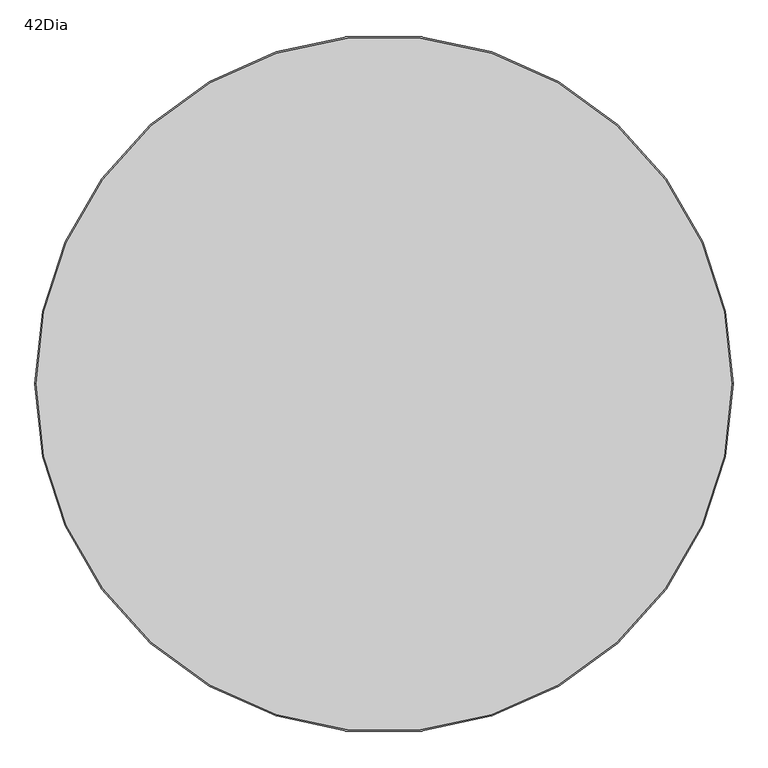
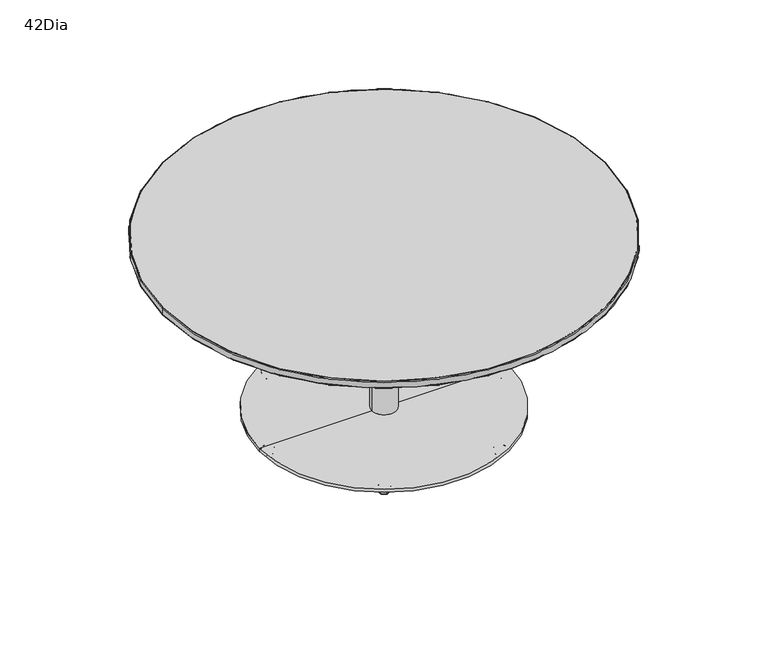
"""IFC4 building model written with IfcOpenShell, lengths in millimetres: furniture geometry, Coalesse_AM_Table_Occasional_Montara650Table_Round : 42Dia."""

from ifc_helpers import new_model, si_unit, point, frame, origin, origin_with_axes, origin_2d, place, context, project, spatial, polyline, circle_curve, ellipse_curve, trimmed, segment, composite_curve, outline, extrude, source, transform, mapped, element, save
from ifc_brep_helpers import plane_surface, cylinder_surface, revolved_surface, advanced_brep


def furniture_42dia_f3805051(model_context):
    return source(origin(), model_context, "Body", "SolidModel", [
        advanced_brep(
        [(140.1902286, -242.2232047, 0.0), (147.532871, -249.5658472, 0.0), (132.8475862, -234.8805623, 0.0), (148.0793732, -250.1123493, 0.5718943), (132.301084, -234.3340602, 0.5718943), (150.3784723, -252.4114484, 11.2068005), (130.0019849, -232.0349611, 11.2068005), (149.9634515, -251.9964276, 11.9999882), (130.4170057, -232.4499819, 11.9999882), (140.1902286, -242.2232047, 11.9999882)],
        [
            (0, 1),
            (1, 2, circle_curve(frame((140.1902286, -242.2232047, 0.0), z_axis=(0.0, 0.0, -1.0), x_axis=(0.7071067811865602, -0.7071067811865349, 0.0)), 10.3840645)),
            (2, 0),
            (2, 1, circle_curve(frame((140.1902286, -242.2232047, 0.0), z_axis=(0.0, 0.0, -1.0), x_axis=(0.7071067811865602, -0.7071067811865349, 0.0)), 10.3840645)),
            (1, 3, circle_curve(frame((147.532871, -249.5658472, 0.8081846), z_axis=(-0.7071067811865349, -0.7071067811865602, 0.0), x_axis=(0.7071067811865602, -0.7071067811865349, 0.0)), 0.8081846)),
            (3, 4, circle_curve(frame((140.1902286, -242.2232047, 0.5718943), z_axis=(0.0, 0.0, -1.0), x_axis=(0.7071067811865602, -0.7071067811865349, 0.0)), 11.1569353)),
            (4, 2, circle_curve(frame((132.8475862, -234.8805623, 0.8081846), z_axis=(-0.7071067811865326, -0.7071067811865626, 0.0), x_axis=(-0.7071067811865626, 0.7071067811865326, 0.0)), 0.8081846)),
            (4, 3, circle_curve(frame((140.1902286, -242.2232047, 0.5718943), z_axis=(0.0, 0.0, -1.0), x_axis=(0.7071067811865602, -0.7071067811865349, 0.0)), 11.1569353)),
            (3, 5),
            (5, 6, circle_curve(frame((140.1902286, -242.2232047, 11.2068005), z_axis=(0.0, 0.0, -1.0), x_axis=(0.7071067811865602, -0.7071067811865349, 0.0)), 14.4083524)),
            (6, 4),
            (6, 5, circle_curve(frame((140.1902286, -242.2232047, 11.2068005), z_axis=(0.0, 0.0, -1.0), x_axis=(0.7071067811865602, -0.7071067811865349, 0.0)), 14.4083524)),
            (5, 7, circle_curve(frame((149.9634515, -251.9964276, 11.3862424), z_axis=(-0.7071067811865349, -0.7071067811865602, 0.0), x_axis=(0.7071067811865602, -0.7071067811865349, 0.0)), 0.6137458)),
            (7, 8, circle_curve(frame((140.1902286, -242.2232047, 11.9999882), z_axis=(0.0, 0.0, -1.0), x_axis=(0.7071067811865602, -0.7071067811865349, 0.0)), 13.8214243)),
            (8, 6, circle_curve(frame((130.4170057, -232.4499819, 11.3862424), z_axis=(-0.7071067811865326, -0.7071067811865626, 0.0), x_axis=(-0.7071067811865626, 0.7071067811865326, 0.0)), 0.6137458)),
            (8, 7, circle_curve(frame((140.1902286, -242.2232047, 11.9999882), z_axis=(0.0, 0.0, -1.0), x_axis=(0.7071067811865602, -0.7071067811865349, 0.0)), 13.8214243)),
            (7, 9),
            (9, 8),
        ],
        [
            plane_surface(frame((140.1902286, -242.2232047, 0.0), z_axis=(0.0, 0.0, -1.0000000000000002), x_axis=(0.7071067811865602, -0.7071067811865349, 0.0))),
            revolved_surface(trimmed(ellipse_curve(frame((147.532871, -249.5658472, 0.8081846), z_axis=(0.7071067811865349, 0.7071067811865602, 0.0), x_axis=(0.7071067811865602, -0.7071067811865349, 0.0)), 0.8081846, 0.8081846), [point((148.0793732, -250.1123493, 0.5718943))], [point((147.532871, -249.5658472, 0.0))], True, "CARTESIAN"), (140.1902286, -242.2232047, 12.2086845), (0.0, 0.0, -1.0)),
            revolved_surface(polyline([(150.3784723, -252.4114484, 11.2068005), (148.0793732, -250.1123493, 0.5718943)]), (140.1902286, -242.2232047, 12.2086845), (0.0, 0.0, -1.0)),
            revolved_surface(trimmed(ellipse_curve(frame((149.9634515, -251.9964276, 11.3862424), z_axis=(0.7071067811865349, 0.7071067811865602, 0.0), x_axis=(0.7071067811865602, -0.7071067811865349, 0.0)), 0.6137458, 0.6137458), [point((149.9634515, -251.9964276, 11.9999882))], [point((150.3784723, -252.4114484, 11.2068005))], True, "CARTESIAN"), (140.1902286, -242.2232047, 12.2086845), (0.0, 0.0, -1.0)),
            plane_surface(frame((140.1902286, -242.2232047, 11.9999882), z_axis=(0.0, 0.0, 1.0000000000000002), x_axis=(0.7071067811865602, -0.7071067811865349, 0.0))),
        ],
        [
            (0, [[1, 2, 3]]),
            (0, [[-3, 4, -1]]),
            (1, [[-2, 5, 6, 7]]),
            (1, [[-4, -7, 8, -5]]),
            (2, [[-6, 9, 10, 11]]),
            (2, [[-8, -11, 12, -9]]),
            (3, [[-10, 13, 14, 15]]),
            (3, [[-12, -15, 16, -13]]),
            (4, [[-14, 17, 18]]),
            (4, [[-16, -18, -17]]),
        ],
    ),
        advanced_brep(
        [(-272.6726436, 7.3478584, 0.0), (-287.3579284, -7.3374265, 0.0), (-280.015286, 0.005216, 0.0), (-272.1261414, 7.8943605, 0.5718943), (-287.9044306, -7.8839286, 0.5718943), (-269.8270423, 10.1934596, 11.2068005), (-290.2035297, -10.1830277, 11.2068005), (-270.2420631, 9.7784388, 11.9999882), (-289.7885089, -9.7680069, 11.9999882), (-280.015286, 0.005216, 11.9999882)],
        [
            (0, 1, circle_curve(frame((-280.015286, 0.005216, 0.0), z_axis=(0.0, 0.0, -1.0), x_axis=(-0.7071067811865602, -0.7071067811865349, 0.0)), 10.3840645)),
            (1, 2),
            (2, 0),
            (1, 0, circle_curve(frame((-280.015286, 0.005216, 0.0), z_axis=(0.0, 0.0, -1.0), x_axis=(-0.7071067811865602, -0.7071067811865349, 0.0)), 10.3840645)),
            (3, 4, circle_curve(frame((-280.015286, 0.005216, 0.5718943), z_axis=(0.0, 0.0, -1.0), x_axis=(-0.7071067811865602, -0.7071067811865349, 0.0)), 11.1569353)),
            (4, 1, circle_curve(frame((-287.3579284, -7.3374265, 0.8081846), z_axis=(0.7071067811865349, -0.7071067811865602, 0.0), x_axis=(-0.7071067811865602, -0.7071067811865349, 0.0)), 0.8081846)),
            (0, 3, circle_curve(frame((-272.6726436, 7.3478584, 0.8081846), z_axis=(0.7071067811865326, -0.7071067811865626, 0.0), x_axis=(0.7071067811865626, 0.7071067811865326, 0.0)), 0.8081846)),
            (4, 3, circle_curve(frame((-280.015286, 0.005216, 0.5718943), z_axis=(0.0, 0.0, -1.0), x_axis=(-0.7071067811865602, -0.7071067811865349, 0.0)), 11.1569353)),
            (5, 6, circle_curve(frame((-280.015286, 0.005216, 11.2068005), z_axis=(0.0, 0.0, -1.0), x_axis=(-0.7071067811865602, -0.7071067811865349, 0.0)), 14.4083524)),
            (6, 4),
            (3, 5),
            (6, 5, circle_curve(frame((-280.015286, 0.005216, 11.2068005), z_axis=(0.0, 0.0, -1.0), x_axis=(-0.7071067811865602, -0.7071067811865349, 0.0)), 14.4083524)),
            (7, 8, circle_curve(frame((-280.015286, 0.005216, 11.9999882), z_axis=(0.0, 0.0, -1.0), x_axis=(-0.7071067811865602, -0.7071067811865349, 0.0)), 13.8214243)),
            (8, 6, circle_curve(frame((-289.7885089, -9.7680069, 11.3862424), z_axis=(0.7071067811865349, -0.7071067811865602, 0.0), x_axis=(-0.7071067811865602, -0.7071067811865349, 0.0)), 0.6137458)),
            (5, 7, circle_curve(frame((-270.2420631, 9.7784388, 11.3862424), z_axis=(0.7071067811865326, -0.7071067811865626, 0.0), x_axis=(0.7071067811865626, 0.7071067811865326, 0.0)), 0.6137458)),
            (8, 7, circle_curve(frame((-280.015286, 0.005216, 11.9999882), z_axis=(0.0, 0.0, -1.0), x_axis=(-0.7071067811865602, -0.7071067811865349, 0.0)), 13.8214243)),
            (9, 8),
            (7, 9),
        ],
        [
            plane_surface(frame((-280.015286, 0.005216, 0.0), z_axis=(0.0, 0.0, -1.0000000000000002), x_axis=(-0.7071067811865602, -0.7071067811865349, 0.0))),
            revolved_surface(trimmed(ellipse_curve(frame((-287.3579284, -7.3374265, 0.8081846), z_axis=(-0.7071067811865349, 0.7071067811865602, 0.0), x_axis=(-0.7071067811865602, -0.7071067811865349, 0.0)), 0.8081846, 0.8081846), [point((-287.3579284, -7.3374265, 0.0))], [point((-287.9044306, -7.8839286, 0.5718943))], True, "CARTESIAN"), (-280.015286, 0.005216, 12.2086845), (0.0, 0.0, 1.0)),
            revolved_surface(polyline([(-287.9044306, -7.8839286, 0.5718943), (-290.2035297, -10.1830277, 11.2068005)]), (-280.015286, 0.005216, 12.2086845), (0.0, 0.0, 1.0)),
            revolved_surface(trimmed(ellipse_curve(frame((-289.7885089, -9.7680069, 11.3862424), z_axis=(-0.7071067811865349, 0.7071067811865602, 0.0), x_axis=(-0.7071067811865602, -0.7071067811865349, 0.0)), 0.6137458, 0.6137458), [point((-290.2035297, -10.1830277, 11.2068005))], [point((-289.7885089, -9.7680069, 11.9999882))], True, "CARTESIAN"), (-280.015286, 0.005216, 12.2086845), (0.0, 0.0, 1.0)),
            plane_surface(frame((-280.015286, 0.005216, 11.9999882), z_axis=(0.0, 0.0, 1.0000000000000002), x_axis=(-0.7071067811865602, -0.7071067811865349, 0.0))),
        ],
        [
            (0, [[1, 2, 3]]),
            (0, [[4, -3, -2]]),
            (1, [[5, 6, -1, 7]]),
            (1, [[8, -7, -4, -6]]),
            (2, [[9, 10, -5, 11]]),
            (2, [[12, -11, -8, -10]]),
            (3, [[13, 14, -9, 15]]),
            (3, [[16, -15, -12, -14]]),
            (4, [[17, -13, 18]]),
            (4, [[-18, -16, -17]]),
        ],
    ),
        advanced_brep(
        [(-139.956746, -232.3431955, 0.0), (-139.956746, -253.1113245, 0.0), (-139.956746, -242.72726, 0.0), (-139.956746, -231.5703248, 0.5718943), (-139.956746, -253.8841953, 0.5718943), (-139.956746, -228.3189076, 11.2068005), (-139.956746, -257.1356124, 11.2068005), (-139.956746, -228.9058357, 11.9999882), (-139.956746, -256.5486844, 11.9999882), (-139.956746, -242.72726, 11.9999882)],
        [
            (0, 1, circle_curve(frame((-139.956746, -242.72726, 0.0), z_axis=(0.0, 0.0, -1.0), x_axis=(0.0, -1.0, 0.0)), 10.3840645)),
            (1, 2),
            (2, 0),
            (1, 0, circle_curve(frame((-139.956746, -242.72726, 0.0), z_axis=(0.0, 0.0, -1.0), x_axis=(0.0, -1.0, 0.0)), 10.3840645)),
            (3, 4, circle_curve(frame((-139.956746, -242.72726, 0.5718943), z_axis=(0.0, 0.0, -1.0), x_axis=(0.0, -1.0, 0.0)), 11.1569353)),
            (4, 1, circle_curve(frame((-139.956746, -253.1113245, 0.8081846), z_axis=(1.0, 0.0, 0.0), x_axis=(0.0, -1.0, 0.0)), 0.8081846)),
            (0, 3, circle_curve(frame((-139.956746, -232.3431955, 0.8081846), z_axis=(1.0, 0.0, 0.0), x_axis=(0.0, 1.0, 0.0)), 0.8081846)),
            (4, 3, circle_curve(frame((-139.956746, -242.72726, 0.5718943), z_axis=(0.0, 0.0, -1.0), x_axis=(0.0, -1.0, 0.0)), 11.1569353)),
            (5, 6, circle_curve(frame((-139.956746, -242.72726, 11.2068005), z_axis=(0.0, 0.0, -1.0), x_axis=(0.0, -1.0, 0.0)), 14.4083524)),
            (6, 4),
            (3, 5),
            (6, 5, circle_curve(frame((-139.956746, -242.72726, 11.2068005), z_axis=(0.0, 0.0, -1.0), x_axis=(0.0, -1.0, 0.0)), 14.4083524)),
            (7, 8, circle_curve(frame((-139.956746, -242.72726, 11.9999882), z_axis=(0.0, 0.0, -1.0), x_axis=(0.0, -1.0, 0.0)), 13.8214243)),
            (8, 6, circle_curve(frame((-139.956746, -256.5486844, 11.3862424), z_axis=(1.0, 0.0, 0.0), x_axis=(0.0, -1.0, 0.0)), 0.6137458)),
            (5, 7, circle_curve(frame((-139.956746, -228.9058357, 11.3862424), z_axis=(1.0, 0.0, 0.0), x_axis=(0.0, 1.0, 0.0)), 0.6137458)),
            (8, 7, circle_curve(frame((-139.956746, -242.72726, 11.9999882), z_axis=(0.0, 0.0, -1.0), x_axis=(0.0, -1.0, 0.0)), 13.8214243)),
            (9, 8),
            (7, 9),
        ],
        [
            plane_surface(frame((-139.956746, -242.72726, 0.0), z_axis=(0.0, 0.0, -1.0), x_axis=(0.0, -1.0, 0.0))),
            revolved_surface(trimmed(ellipse_curve(frame((-139.956746, -253.1113245, 0.8081846), z_axis=(-1.0, 0.0, 0.0), x_axis=(0.0, -1.0, 0.0)), 0.8081846, 0.8081846), [point((-139.956746, -253.1113245, 0.0))], [point((-139.956746, -253.8841953, 0.5718943))], True, "CARTESIAN"), (-139.956746, -242.72726, 12.2086845), (0.0, 0.0, 1.0)),
            revolved_surface(polyline([(-139.956746, -253.8841953, 0.5718943), (-139.956746, -257.1356124, 11.2068005)]), (-139.956746, -242.72726, 12.2086845), (0.0, 0.0, 1.0)),
            revolved_surface(trimmed(ellipse_curve(frame((-139.956746, -256.5486844, 11.3862424), z_axis=(-1.0, 0.0, 0.0), x_axis=(0.0, -1.0, 0.0)), 0.6137458, 0.6137458), [point((-139.956746, -257.1356124, 11.2068005))], [point((-139.956746, -256.5486844, 11.9999882))], True, "CARTESIAN"), (-139.956746, -242.72726, 12.2086845), (0.0, 0.0, 1.0)),
            plane_surface(frame((-139.956746, -242.72726, 11.9999882), z_axis=(0.0, 0.0, 1.0), x_axis=(0.0, -1.0, 0.0))),
        ],
        [
            (0, [[1, 2, 3]]),
            (0, [[4, -3, -2]]),
            (1, [[5, 6, -1, 7]]),
            (1, [[8, -7, -4, -6]]),
            (2, [[9, 10, -5, 11]]),
            (2, [[12, -11, -8, -10]]),
            (3, [[13, 14, -9, 15]]),
            (3, [[16, -15, -12, -14]]),
            (4, [[17, -13, 18]]),
            (4, [[-18, -16, -17]]),
        ],
    ),
        advanced_brep(
        [(272.6279276, -5.5927106, 0.0), (287.3132124, 9.0925742, 0.0), (279.97057, 1.7499318, 0.0), (272.0814254, -6.1392128, 0.5718943), (287.8597146, 9.6390764, 0.5718943), (269.7823263, -8.4383119, 11.2068005), (290.1588137, 11.9381755, 11.2068005), (270.1973471, -8.0232911, 11.9999882), (289.7437929, 11.5231547, 11.9999882), (279.97057, 1.7499318, 11.9999882)],
        [
            (0, 1, circle_curve(frame((279.97057, 1.7499318, 0.0), z_axis=(0.0, 0.0, -1.0), x_axis=(0.7071067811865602, 0.7071067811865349, 0.0)), 10.3840645)),
            (1, 2),
            (2, 0),
            (1, 0, circle_curve(frame((279.97057, 1.7499318, 0.0), z_axis=(0.0, 0.0, -1.0), x_axis=(0.7071067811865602, 0.7071067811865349, 0.0)), 10.3840645)),
            (3, 4, circle_curve(frame((279.97057, 1.7499318, 0.5718943), z_axis=(0.0, 0.0, -1.0), x_axis=(0.7071067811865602, 0.7071067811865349, 0.0)), 11.1569353)),
            (4, 1, circle_curve(frame((287.3132124, 9.0925742, 0.8081846), z_axis=(-0.7071067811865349, 0.7071067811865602, 0.0), x_axis=(0.7071067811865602, 0.7071067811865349, 0.0)), 0.8081846)),
            (0, 3, circle_curve(frame((272.6279276, -5.5927106, 0.8081846), z_axis=(-0.7071067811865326, 0.7071067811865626, 0.0), x_axis=(-0.7071067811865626, -0.7071067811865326, 0.0)), 0.8081846)),
            (4, 3, circle_curve(frame((279.97057, 1.7499318, 0.5718943), z_axis=(0.0, 0.0, -1.0), x_axis=(0.7071067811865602, 0.7071067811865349, 0.0)), 11.1569353)),
            (5, 6, circle_curve(frame((279.97057, 1.7499318, 11.2068005), z_axis=(0.0, 0.0, -1.0), x_axis=(0.7071067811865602, 0.7071067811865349, 0.0)), 14.4083524)),
            (6, 4),
            (3, 5),
            (6, 5, circle_curve(frame((279.97057, 1.7499318, 11.2068005), z_axis=(0.0, 0.0, -1.0), x_axis=(0.7071067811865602, 0.7071067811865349, 0.0)), 14.4083524)),
            (7, 8, circle_curve(frame((279.97057, 1.7499318, 11.9999882), z_axis=(0.0, 0.0, -1.0), x_axis=(0.7071067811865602, 0.7071067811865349, 0.0)), 13.8214243)),
            (8, 6, circle_curve(frame((289.7437929, 11.5231547, 11.3862424), z_axis=(-0.7071067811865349, 0.7071067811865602, 0.0), x_axis=(0.7071067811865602, 0.7071067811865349, 0.0)), 0.6137458)),
            (5, 7, circle_curve(frame((270.1973471, -8.0232911, 11.3862424), z_axis=(-0.7071067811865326, 0.7071067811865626, 0.0), x_axis=(-0.7071067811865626, -0.7071067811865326, 0.0)), 0.6137458)),
            (8, 7, circle_curve(frame((279.97057, 1.7499318, 11.9999882), z_axis=(0.0, 0.0, -1.0), x_axis=(0.7071067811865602, 0.7071067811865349, 0.0)), 13.8214243)),
            (9, 8),
            (7, 9),
        ],
        [
            plane_surface(frame((279.97057, 1.7499318, 0.0), z_axis=(0.0, 0.0, -1.0000000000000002), x_axis=(0.7071067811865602, 0.7071067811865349, 0.0))),
            revolved_surface(trimmed(ellipse_curve(frame((287.3132124, 9.0925742, 0.8081846), z_axis=(0.7071067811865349, -0.7071067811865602, 0.0), x_axis=(0.7071067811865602, 0.7071067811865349, 0.0)), 0.8081846, 0.8081846), [point((287.3132124, 9.0925742, 0.0))], [point((287.8597146, 9.6390764, 0.5718943))], True, "CARTESIAN"), (279.97057, 1.7499318, 12.2086845), (0.0, 0.0, 1.0)),
            revolved_surface(polyline([(287.8597146, 9.6390764, 0.5718943), (290.1588137, 11.9381755, 11.2068005)]), (279.97057, 1.7499318, 12.2086845), (0.0, 0.0, 1.0)),
            revolved_surface(trimmed(ellipse_curve(frame((289.7437929, 11.5231547, 11.3862424), z_axis=(0.7071067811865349, -0.7071067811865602, 0.0), x_axis=(0.7071067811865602, 0.7071067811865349, 0.0)), 0.6137458, 0.6137458), [point((290.1588137, 11.9381755, 11.2068005))], [point((289.7437929, 11.5231547, 11.9999882))], True, "CARTESIAN"), (279.97057, 1.7499318, 12.2086845), (0.0, 0.0, 1.0)),
            plane_surface(frame((279.97057, 1.7499318, 11.9999882), z_axis=(0.0, 0.0, 1.0000000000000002), x_axis=(0.7071067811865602, 0.7071067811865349, 0.0))),
        ],
        [
            (0, [[1, 2, 3]]),
            (0, [[4, -3, -2]]),
            (1, [[5, 6, -1, 7]]),
            (1, [[8, -7, -4, -6]]),
            (2, [[9, 10, -5, 11]]),
            (2, [[12, -11, -8, -10]]),
            (3, [[13, 14, -9, 15]]),
            (3, [[16, -15, -12, -14]]),
            (4, [[17, -13, 18]]),
            (4, [[-18, -16, -17]]),
        ],
    ),
        advanced_brep(
        [(-140.2461986, 242.0572828, 0.0), (-147.5888411, 249.3999252, 0.0), (-132.9035562, 234.7146404, 0.0), (-148.1353432, 249.9464274, 0.5718943), (-132.357054, 234.1681382, 0.5718943), (-150.4344423, 252.2455265, 11.2068005), (-130.057955, 231.8690391, 11.2068005), (-150.0194215, 251.8305057, 11.9999882), (-130.4729758, 232.2840599, 11.9999882), (-140.2461986, 242.0572828, 11.9999882)],
        [
            (0, 1),
            (1, 2, circle_curve(frame((-140.2461986, 242.0572828, 0.0), z_axis=(0.0, 0.0, -1.0), x_axis=(-0.7071067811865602, 0.7071067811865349, 0.0)), 10.3840645)),
            (2, 0),
            (2, 1, circle_curve(frame((-140.2461986, 242.0572828, 0.0), z_axis=(0.0, 0.0, -1.0), x_axis=(-0.7071067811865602, 0.7071067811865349, 0.0)), 10.3840645)),
            (1, 3, circle_curve(frame((-147.5888411, 249.3999252, 0.8081846), z_axis=(0.7071067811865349, 0.7071067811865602, 0.0), x_axis=(-0.7071067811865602, 0.7071067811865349, 0.0)), 0.8081846)),
            (3, 4, circle_curve(frame((-140.2461986, 242.0572828, 0.5718943), z_axis=(0.0, 0.0, -1.0), x_axis=(-0.7071067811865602, 0.7071067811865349, 0.0)), 11.1569353)),
            (4, 2, circle_curve(frame((-132.9035562, 234.7146404, 0.8081846), z_axis=(0.7071067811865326, 0.7071067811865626, 0.0), x_axis=(0.7071067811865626, -0.7071067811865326, 0.0)), 0.8081846)),
            (4, 3, circle_curve(frame((-140.2461986, 242.0572828, 0.5718943), z_axis=(0.0, 0.0, -1.0), x_axis=(-0.7071067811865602, 0.7071067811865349, 0.0)), 11.1569353)),
            (3, 5),
            (5, 6, circle_curve(frame((-140.2461986, 242.0572828, 11.2068005), z_axis=(0.0, 0.0, -1.0), x_axis=(-0.7071067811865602, 0.7071067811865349, 0.0)), 14.4083524)),
            (6, 4),
            (6, 5, circle_curve(frame((-140.2461986, 242.0572828, 11.2068005), z_axis=(0.0, 0.0, -1.0), x_axis=(-0.7071067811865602, 0.7071067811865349, 0.0)), 14.4083524)),
            (5, 7, circle_curve(frame((-150.0194215, 251.8305057, 11.3862424), z_axis=(0.7071067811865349, 0.7071067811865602, 0.0), x_axis=(-0.7071067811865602, 0.7071067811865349, 0.0)), 0.6137458)),
            (7, 8, circle_curve(frame((-140.2461986, 242.0572828, 11.9999882), z_axis=(0.0, 0.0, -1.0), x_axis=(-0.7071067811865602, 0.7071067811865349, 0.0)), 13.8214243)),
            (8, 6, circle_curve(frame((-130.4729758, 232.2840599, 11.3862424), z_axis=(0.7071067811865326, 0.7071067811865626, 0.0), x_axis=(0.7071067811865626, -0.7071067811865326, 0.0)), 0.6137458)),
            (8, 7, circle_curve(frame((-140.2461986, 242.0572828, 11.9999882), z_axis=(0.0, 0.0, -1.0), x_axis=(-0.7071067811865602, 0.7071067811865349, 0.0)), 13.8214243)),
            (7, 9),
            (9, 8),
        ],
        [
            plane_surface(frame((-140.2461986, 242.0572828, 0.0), z_axis=(0.0, 0.0, -1.0000000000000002), x_axis=(-0.7071067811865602, 0.7071067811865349, 0.0))),
            revolved_surface(trimmed(ellipse_curve(frame((-147.5888411, 249.3999252, 0.8081846), z_axis=(-0.7071067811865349, -0.7071067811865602, 0.0), x_axis=(-0.7071067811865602, 0.7071067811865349, 0.0)), 0.8081846, 0.8081846), [point((-148.1353432, 249.9464274, 0.5718943))], [point((-147.5888411, 249.3999252, 0.0))], True, "CARTESIAN"), (-140.2461986, 242.0572828, 12.2086845), (0.0, 0.0, -1.0)),
            revolved_surface(polyline([(-150.4344423, 252.2455265, 11.2068005), (-148.1353432, 249.9464274, 0.5718943)]), (-140.2461986, 242.0572828, 12.2086845), (0.0, 0.0, -1.0)),
            revolved_surface(trimmed(ellipse_curve(frame((-150.0194215, 251.8305057, 11.3862424), z_axis=(-0.7071067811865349, -0.7071067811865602, 0.0), x_axis=(-0.7071067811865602, 0.7071067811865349, 0.0)), 0.6137458, 0.6137458), [point((-150.0194215, 251.8305057, 11.9999882))], [point((-150.4344423, 252.2455265, 11.2068005))], True, "CARTESIAN"), (-140.2461986, 242.0572828, 12.2086845), (0.0, 0.0, -1.0)),
            plane_surface(frame((-140.2461986, 242.0572828, 11.9999882), z_axis=(0.0, 0.0, 1.0000000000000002), x_axis=(-0.7071067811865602, 0.7071067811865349, 0.0))),
        ],
        [
            (0, [[1, 2, 3]]),
            (0, [[-3, 4, -1]]),
            (1, [[-2, 5, 6, 7]]),
            (1, [[-4, -7, 8, -5]]),
            (2, [[-6, 9, 10, 11]]),
            (2, [[-8, -11, 12, -9]]),
            (3, [[-10, 13, 14, 15]]),
            (3, [[-12, -15, 16, -13]]),
            (4, [[-14, 17, 18]]),
            (4, [[-16, -18, -17]]),
        ],
    ),
        advanced_brep(
        [(140.9075639, 242.2893563, 0.0), (140.9075639, 252.6734208, 0.0), (140.9075639, 231.9052918, 0.0), (140.9075639, 253.4462915, 0.5718943), (140.9075639, 231.132421, 0.5718943), (140.9075639, 256.6977086, 11.2068005), (140.9075639, 227.8810039, 11.2068005), (140.9075639, 256.1107806, 11.9999882), (140.9075639, 228.4679319, 11.9999882), (140.9075639, 242.2893563, 11.9999882)],
        [
            (0, 1),
            (1, 2, circle_curve(frame((140.9075639, 242.2893563, 0.0), z_axis=(0.0, 0.0, -1.0), x_axis=(0.0, 1.0, 0.0)), 10.3840645)),
            (2, 0),
            (2, 1, circle_curve(frame((140.9075639, 242.2893563, 0.0), z_axis=(0.0, 0.0, -1.0), x_axis=(0.0, 1.0, 0.0)), 10.3840645)),
            (1, 3, circle_curve(frame((140.9075639, 252.6734208, 0.8081846), z_axis=(1.0, 0.0, 0.0), x_axis=(0.0, 1.0, 0.0)), 0.8081846)),
            (3, 4, circle_curve(frame((140.9075639, 242.2893563, 0.5718943), z_axis=(0.0, 0.0, -1.0), x_axis=(0.0, 1.0, 0.0)), 11.1569353)),
            (4, 2, circle_curve(frame((140.9075639, 231.9052918, 0.8081846), z_axis=(1.0, 0.0, 0.0), x_axis=(0.0, -1.0, 0.0)), 0.8081846)),
            (4, 3, circle_curve(frame((140.9075639, 242.2893563, 0.5718943), z_axis=(0.0, 0.0, -1.0), x_axis=(0.0, 1.0, 0.0)), 11.1569353)),
            (3, 5),
            (5, 6, circle_curve(frame((140.9075639, 242.2893563, 11.2068005), z_axis=(0.0, 0.0, -1.0), x_axis=(0.0, 1.0, 0.0)), 14.4083524)),
            (6, 4),
            (6, 5, circle_curve(frame((140.9075639, 242.2893563, 11.2068005), z_axis=(0.0, 0.0, -1.0), x_axis=(0.0, 1.0, 0.0)), 14.4083524)),
            (5, 7, circle_curve(frame((140.9075639, 256.1107806, 11.3862424), z_axis=(1.0, 0.0, 0.0), x_axis=(0.0, 1.0, 0.0)), 0.6137458)),
            (7, 8, circle_curve(frame((140.9075639, 242.2893563, 11.9999882), z_axis=(0.0, 0.0, -1.0), x_axis=(0.0, 1.0, 0.0)), 13.8214243)),
            (8, 6, circle_curve(frame((140.9075639, 228.4679319, 11.3862424), z_axis=(1.0, 0.0, 0.0), x_axis=(0.0, -1.0, 0.0)), 0.6137458)),
            (8, 7, circle_curve(frame((140.9075639, 242.2893563, 11.9999882), z_axis=(0.0, 0.0, -1.0), x_axis=(0.0, 1.0, 0.0)), 13.8214243)),
            (7, 9),
            (9, 8),
        ],
        [
            plane_surface(frame((140.9075639, 242.2893563, 0.0), z_axis=(0.0, 0.0, -1.0), x_axis=(0.0, 1.0, 0.0))),
            revolved_surface(trimmed(ellipse_curve(frame((140.9075639, 252.6734208, 0.8081846), z_axis=(-1.0, 0.0, 0.0), x_axis=(0.0, 1.0, 0.0)), 0.8081846, 0.8081846), [point((140.9075639, 253.4462915, 0.5718943))], [point((140.9075639, 252.6734208, 0.0))], True, "CARTESIAN"), (140.9075639, 242.2893563, 12.2086845), (0.0, 0.0, -1.0)),
            revolved_surface(polyline([(140.9075639, 256.6977086, 11.2068005), (140.9075639, 253.4462915, 0.5718943)]), (140.9075639, 242.2893563, 12.2086845), (0.0, 0.0, -1.0)),
            revolved_surface(trimmed(ellipse_curve(frame((140.9075639, 256.1107806, 11.3862424), z_axis=(-1.0, 0.0, 0.0), x_axis=(0.0, 1.0, 0.0)), 0.6137458, 0.6137458), [point((140.9075639, 256.1107806, 11.9999882))], [point((140.9075639, 256.6977086, 11.2068005))], True, "CARTESIAN"), (140.9075639, 242.2893563, 12.2086845), (0.0, 0.0, -1.0)),
            plane_surface(frame((140.9075639, 242.2893563, 11.9999882), z_axis=(0.0, 0.0, 1.0), x_axis=(0.0, 1.0, 0.0))),
        ],
        [
            (0, [[1, 2, 3]]),
            (0, [[-3, 4, -1]]),
            (1, [[-2, 5, 6, 7]]),
            (1, [[-4, -7, 8, -5]]),
            (2, [[-6, 9, 10, 11]]),
            (2, [[-8, -11, 12, -9]]),
            (3, [[-10, 13, 14, 15]]),
            (3, [[-12, -15, 16, -13]]),
            (4, [[-14, 17, 18]]),
            (4, [[-16, -18, -17]]),
        ],
    ),
        advanced_brep(
        [(-279.7783052, 0.0, 0.0), (-290.1623697, 0.0, 0.0), (-269.3942407, 0.0, 0.0), (-290.9352405, 0.0, 0.5718943), (-268.62137, 0.0, 0.5718943), (-294.1866576, 0.0, 11.2068005), (-265.3699529, 0.0, 11.2068005), (-293.5997296, 0.0, 11.9999882), (-265.9568809, 0.0, 11.9999882), (-279.7783052, 0.0, 11.9999882)],
        [
            (0, 1),
            (1, 2, circle_curve(frame((-279.7783052, 0.0, 0.0), z_axis=(0.0, 0.0, -1.0), x_axis=(-1.0, 0.0, 0.0)), 10.3840645)),
            (2, 0),
            (2, 1, circle_curve(frame((-279.7783052, 0.0, 0.0), z_axis=(0.0, 0.0, -1.0), x_axis=(-1.0, 0.0, 0.0)), 10.3840645)),
            (1, 3, circle_curve(frame((-290.1623697, 0.0, 0.8081846), z_axis=(0.0, 1.0, 0.0), x_axis=(-1.0, 0.0, 0.0)), 0.8081846)),
            (3, 4, circle_curve(frame((-279.7783052, 0.0, 0.5718943), z_axis=(0.0, 0.0, -1.0), x_axis=(-1.0, 0.0, 0.0)), 11.1569353)),
            (4, 2, circle_curve(frame((-269.3942407, 0.0, 0.8081846), z_axis=(0.0, 1.0, 0.0), x_axis=(1.0, 0.0, 0.0)), 0.8081846)),
            (4, 3, circle_curve(frame((-279.7783052, 0.0, 0.5718943), z_axis=(0.0, 0.0, -1.0), x_axis=(-1.0, 0.0, 0.0)), 11.1569353)),
            (3, 5),
            (5, 6, circle_curve(frame((-279.7783052, 0.0, 11.2068005), z_axis=(0.0, 0.0, -1.0), x_axis=(-1.0, 0.0, 0.0)), 14.4083524)),
            (6, 4),
            (6, 5, circle_curve(frame((-279.7783052, 0.0, 11.2068005), z_axis=(0.0, 0.0, -1.0), x_axis=(-1.0, 0.0, 0.0)), 14.4083524)),
            (5, 7, circle_curve(frame((-293.5997296, 0.0, 11.3862424), z_axis=(0.0, 1.0, 0.0), x_axis=(-1.0, 0.0, 0.0)), 0.6137458)),
            (7, 8, circle_curve(frame((-279.7783052, 0.0, 11.9999882), z_axis=(0.0, 0.0, -1.0), x_axis=(-1.0, 0.0, 0.0)), 13.8214243)),
            (8, 6, circle_curve(frame((-265.9568809, 0.0, 11.3862424), z_axis=(0.0, 1.0, 0.0), x_axis=(1.0, 0.0, 0.0)), 0.6137458)),
            (8, 7, circle_curve(frame((-279.7783052, 0.0, 11.9999882), z_axis=(0.0, 0.0, -1.0), x_axis=(-1.0, 0.0, 0.0)), 13.8214243)),
            (7, 9),
            (9, 8),
        ],
        [
            plane_surface(frame((-279.7783052, 0.0, 0.0), z_axis=(0.0, 0.0, -1.0), x_axis=(-1.0, 0.0, 0.0))),
            revolved_surface(trimmed(ellipse_curve(frame((-290.1623697, 0.0, 0.8081846), z_axis=(0.0, -1.0, 0.0), x_axis=(-1.0, 0.0, 0.0)), 0.8081846, 0.8081846), [point((-290.9352405, 0.0, 0.5718943))], [point((-290.1623697, 0.0, 0.0))], True, "CARTESIAN"), (-279.7783052, 0.0, 12.2086845), (0.0, 0.0, -1.0)),
            revolved_surface(polyline([(-294.1866576, 0.0, 11.2068005), (-290.9352405, 0.0, 0.5718943)]), (-279.7783052, 0.0, 12.2086845), (0.0, 0.0, -1.0)),
            revolved_surface(trimmed(ellipse_curve(frame((-293.5997296, 0.0, 11.3862424), z_axis=(0.0, -1.0, 0.0), x_axis=(-1.0, 0.0, 0.0)), 0.6137458, 0.6137458), [point((-293.5997296, 0.0, 11.9999882))], [point((-294.1866576, 0.0, 11.2068005))], True, "CARTESIAN"), (-279.7783052, 0.0, 12.2086845), (0.0, 0.0, -1.0)),
            plane_surface(frame((-279.7783052, 0.0, 11.9999882), z_axis=(0.0, 0.0, 1.0), x_axis=(-1.0, 0.0, 0.0))),
        ],
        [
            (0, [[1, 2, 3]]),
            (0, [[-3, 4, -1]]),
            (1, [[-2, 5, 6, 7]]),
            (1, [[-4, -7, 8, -5]]),
            (2, [[-6, 9, 10, 11]]),
            (2, [[-8, -11, 12, -9]]),
            (3, [[-10, 13, 14, 15]]),
            (3, [[-12, -15, 16, -13]]),
            (4, [[-14, 17, 18]]),
            (4, [[-16, -18, -17]]),
        ],
    ),
        advanced_brep(
        [(131.6004101, 0.0, 424.055027), (-131.6004101, 0.0, 424.055027), (-176.1756918, 0.0, 424.055027), (176.1756918, 0.0, 424.055027), (37.412985, 0.0, 408.2837029), (-37.412985, 0.0, 408.2837029), (-50.008967, 0.0, 408.2837029), (50.008967, 0.0, 408.2837029), (29.5495828, 0.0, 19.9999965), (-29.5495828, 0.0, 19.9999965), (-29.5495828, 0.0, 420.0852036), (29.5495828, 0.0, 420.0852036), (300.6998255, 0.0, 19.9999965), (-300.6998255, 0.0, 19.9999965), (300.6998255, 0.0, 11.9999882), (-300.6998255, 0.0, 11.9999882), (0.0, 0.0, 11.9999882), (176.1756918, 0.0, 427.230027), (-176.1756918, 0.0, 427.230027), (0.0, 0.0, 427.230027), (33.3511087, 0.0, 409.7383874), (-33.3511087, 0.0, 409.7383874), (31.712334, 0.0, 420.0852036), (-31.712334, 0.0, 420.0852036), (121.585557, 0.0, 422.7987908), (-121.585557, 0.0, 422.7987908)],
        [
            (0, 1, circle_curve(frame((0.0, 0.0, 424.055027), z_axis=(0.0, 0.0, 1.0), x_axis=(-1.0, 0.0, 0.0)), 131.6004101)),
            (1, 2),
            (2, 3, circle_curve(frame((0.0, 0.0, 424.055027), z_axis=(0.0, 0.0, -1.0), x_axis=(-1.0, 0.0, 0.0)), 176.1756918)),
            (3, 0),
            (1, 0, circle_curve(frame((0.0, 0.0, 424.055027), z_axis=(0.0, 0.0, 1.0), x_axis=(-1.0, 0.0, 0.0)), 131.6004101)),
            (3, 2, circle_curve(frame((0.0, 0.0, 424.055027), z_axis=(0.0, 0.0, -1.0), x_axis=(-1.0, 0.0, 0.0)), 176.1756918)),
            (4, 5, circle_curve(frame((0.0, 0.0, 408.2837029), z_axis=(0.0, 0.0, 1.0), x_axis=(-1.0, 0.0, 0.0)), 37.412985)),
            (5, 6),
            (6, 7, circle_curve(frame((0.0, 0.0, 408.2837029), z_axis=(0.0, 0.0, -1.0), x_axis=(-1.0, 0.0, 0.0)), 50.008967)),
            (7, 4),
            (5, 4, circle_curve(frame((0.0, 0.0, 408.2837029), z_axis=(0.0, 0.0, 1.0), x_axis=(-1.0, 0.0, 0.0)), 37.412985)),
            (7, 6, circle_curve(frame((0.0, 0.0, 408.2837029), z_axis=(0.0, 0.0, -1.0), x_axis=(-1.0, 0.0, 0.0)), 50.008967)),
            (8, 9, circle_curve(frame((0.0, 0.0, 19.9999965), z_axis=(0.0, 0.0, 1.0), x_axis=(-1.0, 0.0, 0.0)), 29.5495828)),
            (9, 10),
            (10, 11, circle_curve(frame((0.0, 0.0, 420.0852036), z_axis=(0.0, 0.0, -1.0), x_axis=(-1.0, 0.0, 0.0)), 29.5495828)),
            (11, 8),
            (9, 8, circle_curve(frame((0.0, 0.0, 19.9999965), z_axis=(0.0, 0.0, 1.0), x_axis=(-1.0, 0.0, 0.0)), 29.5495828)),
            (11, 10, circle_curve(frame((0.0, 0.0, 420.0852036), z_axis=(0.0, 0.0, -1.0), x_axis=(-1.0, 0.0, 0.0)), 29.5495828)),
            (12, 13, circle_curve(frame((0.0, 0.0, 19.9999965), z_axis=(0.0, 0.0, 1.0), x_axis=(-1.0, 0.0, 0.0)), 300.6998255)),
            (13, 9),
            (8, 12),
            (13, 12, circle_curve(frame((0.0, 0.0, 19.9999965), z_axis=(0.0, 0.0, 1.0), x_axis=(-1.0, 0.0, 0.0)), 300.6998255)),
            (14, 15, circle_curve(frame((0.0, 0.0, 11.9999882), z_axis=(0.0, 0.0, 1.0), x_axis=(-1.0, 0.0, 0.0)), 300.6998255)),
            (15, 13),
            (12, 14),
            (15, 14, circle_curve(frame((0.0, 0.0, 11.9999882), z_axis=(0.0, 0.0, 1.0), x_axis=(-1.0, 0.0, 0.0)), 300.6998255)),
            (16, 15),
            (14, 16),
            (17, 18, circle_curve(frame((0.0, 0.0, 427.230027), z_axis=(0.0, 0.0, 1.0), x_axis=(-1.0, 0.0, 0.0)), 176.1756918)),
            (18, 19),
            (19, 17),
            (18, 17, circle_curve(frame((0.0, 0.0, 427.230027), z_axis=(0.0, 0.0, 1.0), x_axis=(-1.0, 0.0, 0.0)), 176.1756918)),
            (2, 18),
            (17, 3),
            (20, 21, circle_curve(frame((0.0, 0.0, 409.7383874), z_axis=(0.0, 0.0, 1.0), x_axis=(-1.0, 0.0, 0.0)), 33.3511087)),
            (21, 5),
            (4, 20),
            (21, 20, circle_curve(frame((0.0, 0.0, 409.7383874), z_axis=(0.0, 0.0, 1.0), x_axis=(-1.0, 0.0, 0.0)), 33.3511087)),
            (22, 23, circle_curve(frame((0.0, 0.0, 420.0852036), z_axis=(0.0, 0.0, 1.0), x_axis=(-1.0, 0.0, 0.0)), 31.712334)),
            (23, 21),
            (20, 22),
            (23, 22, circle_curve(frame((0.0, 0.0, 420.0852036), z_axis=(0.0, 0.0, 1.0), x_axis=(-1.0, 0.0, 0.0)), 31.712334)),
            (10, 23),
            (22, 11),
            (24, 25, circle_curve(frame((0.0, 0.0, 422.7987908), z_axis=(0.0, 0.0, 1.0), x_axis=(-1.0, 0.0, 0.0)), 121.585557)),
            (25, 1),
            (0, 24),
            (25, 24, circle_curve(frame((0.0, 0.0, 422.7987908), z_axis=(0.0, 0.0, 1.0), x_axis=(-1.0, 0.0, 0.0)), 121.585557)),
            (6, 25),
            (24, 7),
        ],
        [
            plane_surface(frame((0.0, 0.0, 424.055027), z_axis=(0.0, 0.0, -1.0), x_axis=(-1.0, 0.0, 0.0))),
            plane_surface(frame((0.0, 0.0, 408.2837029), z_axis=(0.0, 0.0, -1.0), x_axis=(-1.0, 0.0, 0.0))),
            cylinder_surface(frame((0.0, 0.0, 172.3999965), z_axis=(0.0, 0.0, -1.0), x_axis=(-1.0, 0.0, 0.0)), 29.5495828),
            plane_surface(frame((0.0, 0.0, 19.9999965), z_axis=(0.0, 0.0, 1.0), x_axis=(-1.0, 0.0, 0.0))),
            cylinder_surface(frame((0.0, 0.0, 172.3999965), z_axis=(0.0, 0.0, -1.0), x_axis=(-1.0, 0.0, 0.0)), 300.6998255),
            plane_surface(frame((0.0, 0.0, 11.9999882), z_axis=(0.0, 0.0, -1.0), x_axis=(-1.0, 0.0, 0.0))),
            plane_surface(frame((0.0, 0.0, 427.230027), z_axis=(0.0, 0.0, 1.0), x_axis=(-1.0, 0.0, 0.0))),
            cylinder_surface(frame((0.0, 0.0, 172.3999965), z_axis=(0.0, 0.0, -1.0), x_axis=(-1.0, 0.0, 0.0)), 176.1756918),
            revolved_surface(polyline([(-37.412985, 0.0, 408.2837029), (-33.3511087, 0.0, 409.7383874)]), (0.0, 0.0, 172.3999965), (0.0, 0.0, -1.0)),
            revolved_surface(polyline([(-33.3511087, 0.0, 409.7383874), (-31.712334, 0.0, 420.0852036)]), (0.0, 0.0, 172.3999965), (0.0, 0.0, -1.0)),
            plane_surface(frame((0.0, 0.0, 420.0852036), z_axis=(0.0, 0.0, -1.0), x_axis=(-1.0, 0.0, 0.0))),
            revolved_surface(polyline([(-131.6004101, 0.0, 424.055027), (-121.585557, 0.0, 422.7987908)]), (0.0, 0.0, 172.3999965), (0.0, 0.0, -1.0)),
            revolved_surface(polyline([(-121.585557, 0.0, 422.7987908), (-50.008967, 0.0, 408.2837029)]), (0.0, 0.0, 172.3999965), (0.0, 0.0, -1.0)),
        ],
        [
            (0, [[1, 2, 3, 4]]),
            (0, [[5, -4, 6, -2]]),
            (1, [[7, 8, 9, 10]]),
            (1, [[11, -10, 12, -8]]),
            (2, [[13, 14, 15, 16]]),
            (2, [[17, -16, 18, -14]]),
            (3, [[19, 20, -13, 21]]),
            (3, [[22, -21, -17, -20]]),
            (4, [[23, 24, -19, 25]]),
            (4, [[26, -25, -22, -24]]),
            (5, [[27, -23, 28]]),
            (5, [[-28, -26, -27]]),
            (6, [[29, 30, 31]]),
            (6, [[32, -31, -30]]),
            (7, [[-3, 33, -29, 34]]),
            (7, [[-6, -34, -32, -33]]),
            (8, [[35, 36, -7, 37]]),
            (8, [[38, -37, -11, -36]]),
            (9, [[39, 40, -35, 41]]),
            (9, [[42, -41, -38, -40]]),
            (10, [[-15, 43, -39, 44]]),
            (10, [[-18, -44, -42, -43]]),
            (11, [[45, 46, -1, 47]]),
            (11, [[48, -47, -5, -46]]),
            (12, [[-9, 49, -45, 50]]),
            (12, [[-12, -50, -48, -49]]),
        ],
    ),
        advanced_brep(
        [(-487.426, 0.0, 427.230027), (487.426, 0.0, 427.230027), (-531.368, 0.0, 439.495891), (531.368, 0.0, 439.495891)],
        [
            (0, 1, circle_curve(frame((0.0, 0.0, 427.230027), z_axis=(0.0, 0.0, -1.0), x_axis=(-1.0, 0.0, 0.0)), 487.426)),
            (1, 0, circle_curve(frame((0.0, 0.0, 427.230027), z_axis=(0.0, 0.0, -1.0), x_axis=(1.0, 0.0, 0.0)), 487.426)),
            (2, 3, circle_curve(frame((0.0, 0.0, 439.495891), z_axis=(0.0, 0.0, 1.0), x_axis=(1.0, 0.0, 0.0)), 531.368)),
            (3, 2, circle_curve(frame((0.0, 0.0, 439.495891), z_axis=(0.0, 0.0, 1.0), x_axis=(-1.0, 0.0, 0.0)), 531.368)),
            (2, 0),
            (1, 3),
        ],
        [
            plane_surface(frame((0.0, 0.0, 427.230027), z_axis=(0.0, 0.0, -1.0), x_axis=(0.0, -1.0, 0.0))),
            plane_surface(frame((0.0, 0.0, 439.495891), z_axis=(0.0, 0.0, 1.0), x_axis=(0.0, -1.0, 0.0))),
            revolved_surface(polyline([(487.4259998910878, 0.0, 427.230027), (531.368, 0.0, 439.495891)]), (0.0, 0.0, 291.1711082), (0.0, 0.0, 1.0)),
            revolved_surface(polyline([(-487.4259998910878, 0.0, 427.230027), (-531.368, 0.0, 439.495891)]), (0.0, 0.0, 291.1711082), (0.0, 0.0, 1.0)),
        ],
        [
            (0, [[1, 2]]),
            (1, [[3, 4]]),
            (2, [[-3, 5, -2, 6]]),
            (3, [[-4, -6, -1, -5]]),
        ],
    ),
        extrude(outline(composite_curve([segment(trimmed(circle_curve(origin_2d(), 531.368), [point((-531.368, 0.0))], [point((531.368, 0.0))], False, "CARTESIAN"), True, "CONTINUOUS"), segment(trimmed(circle_curve(origin_2d(), 531.368), [point((531.368, 0.0))], [point((-531.368, 0.0))], False, "CARTESIAN"), True, "CONTINUOUS")], self_intersect=False)), frame((0.0, 0.0, 439.495891), z_axis=(0.0, 0.0, 1.0), x_axis=(1.0, 0.0, 0.0)), (0.0, 0.0, 1.0), 17.704109),
        advanced_brep(
        [(533.4438665, 0.0, 441.4278467), (-533.4438665, 0.0, 441.4278467), (-531.368, 0.0, 439.495891), (531.368, 0.0, 439.495891), (533.4438665, 0.0, 455.1999283), (-533.4438665, 0.0, 455.1999283), (531.368, 0.0, 457.2), (-531.368, 0.0, 457.2)],
        [
            (0, 1, circle_curve(frame((0.0, 0.0, 441.4278467), z_axis=(0.0, 0.0, -1.0), x_axis=(-1.0, 0.0, 0.0)), 533.4438665)),
            (1, 2, circle_curve(frame((-531.5069224, 0.0, 441.4278467), z_axis=(0.0, -1.0, 0.0), x_axis=(1.0, 0.0, 0.0)), 1.9369441)),
            (2, 3, circle_curve(frame((0.0, 0.0, 439.495891), z_axis=(0.0, 0.0, 1.0), x_axis=(-1.0, 0.0, 0.0)), 531.368)),
            (3, 0, circle_curve(frame((531.5069224, 0.0, 441.4278467), z_axis=(0.0, -1.0, 0.0), x_axis=(-1.0, 0.0, 0.0)), 1.9369441)),
            (4, 5, circle_curve(frame((0.0, 0.0, 455.1999283), z_axis=(0.0, 0.0, -1.0), x_axis=(-1.0, 0.0, 0.0)), 533.4438665)),
            (5, 1),
            (0, 4),
            (6, 7, circle_curve(frame((0.0, 0.0, 457.2), z_axis=(0.0, 0.0, -1.0), x_axis=(-1.0, 0.0, 0.0)), 531.368)),
            (7, 5, circle_curve(frame((-531.4424111, 0.0, 455.1999283), z_axis=(0.0, -1.0, 0.0), x_axis=(1.0, 0.0, 0.0)), 2.0014554)),
            (4, 6, circle_curve(frame((531.4424111, 0.0, 455.1999283), z_axis=(0.0, -1.0, 0.0), x_axis=(-1.0, 0.0, 0.0)), 2.0014554)),
            (2, 7),
            (6, 3),
            (1, 0, circle_curve(frame((0.0, 0.0, 441.4278467), z_axis=(0.0, 0.0, -1.0), x_axis=(1.0, 0.0, 0.0)), 533.4438665)),
            (3, 2, circle_curve(frame((0.0, 0.0, 439.495891), z_axis=(0.0, 0.0, 1.0), x_axis=(1.0, 0.0, 0.0)), 531.368)),
            (5, 4, circle_curve(frame((0.0, 0.0, 455.1999283), z_axis=(0.0, 0.0, -1.0), x_axis=(1.0, 0.0, 0.0)), 533.4438665)),
            (7, 6, circle_curve(frame((0.0, 0.0, 457.2), z_axis=(0.0, 0.0, -1.0), x_axis=(1.0, 0.0, 0.0)), 531.368)),
        ],
        [
            revolved_surface(trimmed(ellipse_curve(frame((-531.5069224, 0.0, 441.4278467), z_axis=(0.0, 1.0, 0.0), x_axis=(1.0, 0.0, 0.0)), 1.9369441, 1.9369441), [point((-531.368, 0.0, 439.495891))], [point((-533.4438665, 0.0, 441.4278467))], True, "CARTESIAN"), (0.0, 0.0, 0.0), (0.0, 0.0, 1.0)),
            cylinder_surface(frame((0.0, 0.0, 0.0), z_axis=(0.0, 0.0, 1.0), x_axis=(-1.0, 0.0, 0.0)), 533.4438665),
            revolved_surface(trimmed(ellipse_curve(frame((-531.4424111, 0.0, 455.1999283), z_axis=(0.0, 1.0, 0.0), x_axis=(1.0, 0.0, 0.0)), 2.0014554, 2.0014554), [point((-533.4438665, 0.0, 455.1999283))], [point((-531.368, 0.0, 457.2))], True, "CARTESIAN"), (0.0, 0.0, 0.0), (0.0, 0.0, 1.0)),
            revolved_surface(polyline([(-531.368, 0.0, 457.2), (-531.368, 0.0, 439.495891)]), (0.0, 0.0, 0.0), (0.0, 0.0, 1.0)),
            revolved_surface(trimmed(ellipse_curve(frame((531.5069224, 0.0, 441.4278467), z_axis=(0.0, -1.0, 0.0), x_axis=(-1.0, 0.0, 0.0)), 1.9369441, 1.9369441), [point((531.368, 0.0, 439.495891))], [point((533.4438665, 0.0, 441.4278467))], True, "CARTESIAN"), (0.0, 0.0, 0.0), (0.0, 0.0, 1.0)),
            cylinder_surface(origin_with_axes(), 533.4438665),
            revolved_surface(trimmed(ellipse_curve(frame((531.4424111, 0.0, 455.1999283), z_axis=(0.0, -1.0, 0.0), x_axis=(-1.0, 0.0, 0.0)), 2.0014554, 2.0014554), [point((533.4438665, 0.0, 455.1999283))], [point((531.368, 0.0, 457.2))], True, "CARTESIAN"), (0.0, 0.0, 0.0), (0.0, 0.0, 1.0)),
            revolved_surface(polyline([(531.368, 0.0, 457.2), (531.368, 0.0, 439.495891)]), (0.0, 0.0, 0.0), (0.0, 0.0, 1.0)),
        ],
        [
            (0, [[1, 2, 3, 4]]),
            (1, [[5, 6, -1, 7]]),
            (2, [[8, 9, -5, 10]]),
            (3, [[-3, 11, -8, 12]]),
            (4, [[13, -4, 14, -2]]),
            (5, [[15, -7, -13, -6]]),
            (6, [[16, -10, -15, -9]]),
            (7, [[-14, -12, -16, -11]]),
        ],
    ),
    ])


if __name__ == "__main__":
    model = new_model("IFC4")
    model_context = context("Model", 3, world=origin())
    ifc_project = project(units=[si_unit("LENGTHUNIT", "METRE", prefix="MILLI")], contexts=[model_context])
    site = spatial("IfcSite", under=ifc_project)
    building = spatial("IfcBuilding", under=site)
    placement = place(None, origin())
    furniture_42dia_shape = furniture_42dia_f3805051(model_context)
    element("IfcFurniture", 1, ObjectType="Coalesse_AM_Table_Occasional_Montara650Table_Round : 42Dia", at=placement, inside=building, context=model_context, shape_type="MappedRepresentation", body=[
        mapped(furniture_42dia_shape, transform((0.0, 0.0, 0.0), x_axis=(1.0, 0.0, 0.0), y_axis=(0.0, 1.0, 0.0), z_axis=(0.0, 0.0, 1.0))),
    ])
    save(model, "model.ifc")
